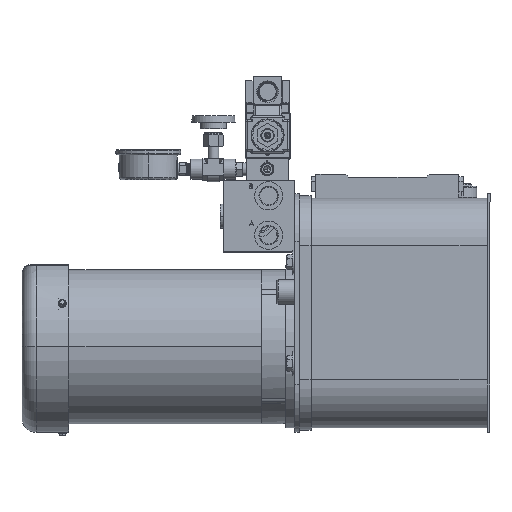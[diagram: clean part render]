
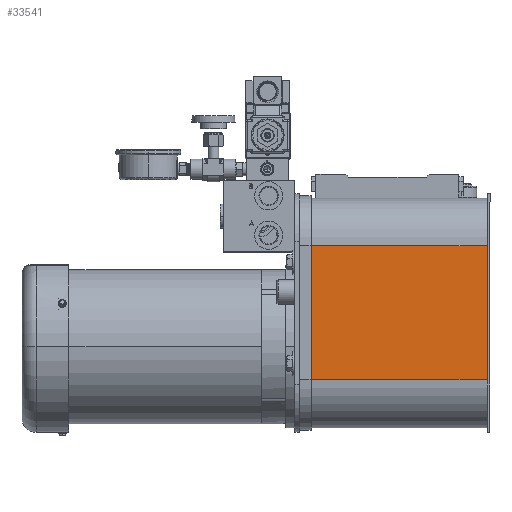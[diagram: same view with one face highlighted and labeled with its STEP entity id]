
A CAD part, top view. The second image highlights one B-rep face of the part: STEP entity #33541.
In plain terms, the highlighted planar face has unit normal (0, 0, 1).
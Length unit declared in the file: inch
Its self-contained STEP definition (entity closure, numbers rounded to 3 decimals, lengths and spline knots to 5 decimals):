
#276 = EDGE_CURVE ( 'NONE', #52487, #127513, #9440, .T. ) ;
#2397 = ORIENTED_EDGE ( 'NONE', *, *, #147295, .F. ) ;
#9426 = CARTESIAN_POINT ( 'NONE',  ( 7.68416, 11.1486, 18.29139 ) ) ;
#9440 = LINE ( 'NONE', #10972, #88077 ) ;
#10178 = DIRECTION ( 'NONE',  ( 0., 1., 0. ) ) ;
#10972 = CARTESIAN_POINT ( 'NONE',  ( -0.19624, 5.5236, 18.29139 ) ) ;
#20556 = VECTOR ( 'NONE', #138873, 39.37008 ) ;
#29530 = VERTEX_POINT ( 'NONE', #75843 ) ;
#33541 = ADVANCED_FACE ( 'NONE', ( #78009 ), #103289, .T. ) ;
#36127 = LINE ( 'NONE', #96051, #122653 ) ;
#42683 = LINE ( 'NONE', #90774, #20556 ) ;
#52487 = VERTEX_POINT ( 'NONE', #96515 ) ;
#52961 = EDGE_LOOP ( 'NONE', ( #2397, #134087, #103831, #143711 ) ) ;
#54117 = CARTESIAN_POINT ( 'NONE',  ( 7.68416, 5.5236, 18.29139 ) ) ;
#55744 = EDGE_CURVE ( 'NONE', #52487, #29530, #36127, .T. ) ;
#75843 = CARTESIAN_POINT ( 'NONE',  ( -0.07124, 11.1486, 18.29139 ) ) ;
#78009 = FACE_OUTER_BOUND ( 'NONE', #52961, .T. ) ;
#78039 = DIRECTION ( 'NONE',  ( 0., 1., 0. ) ) ;
#88077 = VECTOR ( 'NONE', #155160, 39.37008 ) ;
#90669 = LINE ( 'NONE', #113633, #125692 ) ;
#90774 = CARTESIAN_POINT ( 'NONE',  ( -0.19624, 11.1486, 18.29139 ) ) ;
#96051 = CARTESIAN_POINT ( 'NONE',  ( -0.07124, 5.5236, 18.29139 ) ) ;
#96515 = CARTESIAN_POINT ( 'NONE',  ( -0.07124, 5.5236, 18.29139 ) ) ;
#103289 = PLANE ( 'NONE',  #147107 ) ;
#103831 = ORIENTED_EDGE ( 'NONE', *, *, #276, .T. ) ;
#113633 = CARTESIAN_POINT ( 'NONE',  ( 7.68416, 13.3361, 18.29139 ) ) ;
#122293 = EDGE_CURVE ( 'NONE', #127513, #128084, #90669, .T. ) ;
#122653 = VECTOR ( 'NONE', #10178, 39.37008 ) ;
#125692 = VECTOR ( 'NONE', #78039, 39.37008 ) ;
#127513 = VERTEX_POINT ( 'NONE', #54117 ) ;
#128084 = VERTEX_POINT ( 'NONE', #9426 ) ;
#132312 = DIRECTION ( 'NONE',  ( 0., 0., 1. ) ) ;
#134087 = ORIENTED_EDGE ( 'NONE', *, *, #55744, .F. ) ;
#138873 = DIRECTION ( 'NONE',  ( 1., 0., 0. ) ) ;
#142584 = CARTESIAN_POINT ( 'NONE',  ( -0.19624, 5.5236, 18.29139 ) ) ;
#143711 = ORIENTED_EDGE ( 'NONE', *, *, #122293, .T. ) ;
#144133 = DIRECTION ( 'NONE',  ( 0., 1., 0. ) ) ;
#147107 = AXIS2_PLACEMENT_3D ( 'NONE', #142584, #132312, #144133 ) ;
#147295 = EDGE_CURVE ( 'NONE', #29530, #128084, #42683, .T. ) ;
#155160 = DIRECTION ( 'NONE',  ( 1., 0., 0. ) ) ;
